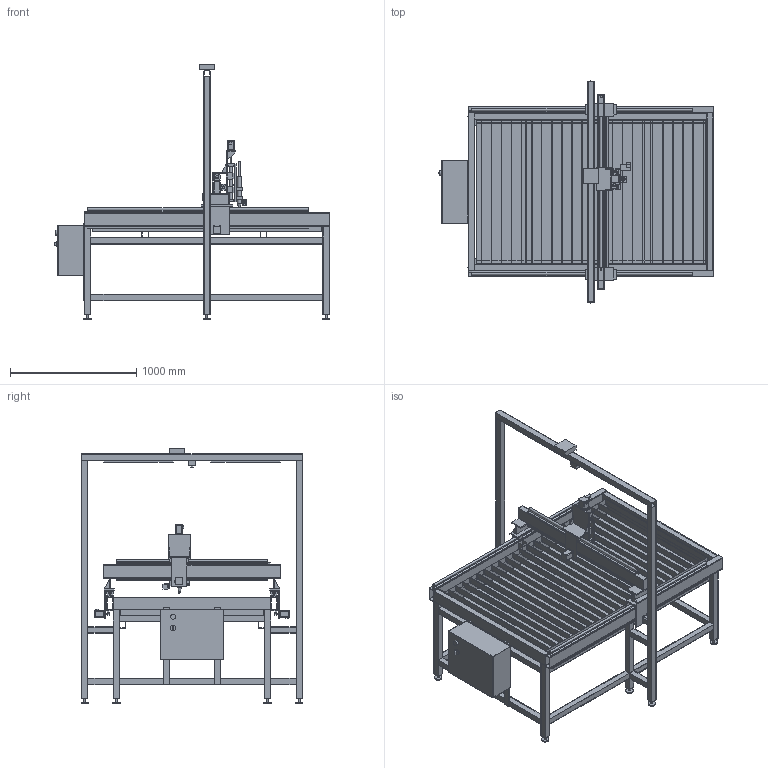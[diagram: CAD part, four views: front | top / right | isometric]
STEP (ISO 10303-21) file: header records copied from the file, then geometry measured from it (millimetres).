
FILE_DESCRIPTION(('Open CASCADE Model'),'2;1');
FILE_NAME('Open CASCADE Shape Model','2026-11-18T10:54:51',('Author'),( 'Open CASCADE'),'Open CASCADE STEP processor 7.9','Open CASCADE 7.9' ,'Unknown');
FILE_SCHEMA(('AUTOMOTIVE_DESIGN { 1 0 10303 214 1 1 1 1 }'));
Length unit declared in the file: millimetre
Products named in the file (178): Mesa_CNC_Plasma_1500x1000; viga_lat_dir; barra_trilho_dir; barra_crem_dir; viga_lat_esq; barra_trilho_esq; barra_crem_esq; viga_cab_tras; viga_cab_frente; pe_0_dir; sapata_0_dir; pe_0_esq; sapata_0_esq; pe_1_dir; sapata_1_dir; pe_1_esq; sapata_1_esq; pe_2_dir; sapata_2_dir; pe_2_esq; sapata_2_esq; trav_inf_long_a_dir; trav_inf_long_b_dir; trav_inf_long_a_esq; trav_inf_long_b_esq; trav_inf_transv_tras; trav_inf_transv_frente; apoio_band_long_dir; apoio_band_long_esq; apoio_band_transv_0; apoio_band_transv_1; apoio_band_transv_2; apoio_band_transv_3; apoio_band_transv_4; bandeja; sup_ripas_dir; sup_ripas_esq; ripa_00; ripa_01; ripa_02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
Assembly tree (177 placements, depth 2):
  Mesa_CNC_Plasma_1500x1000
    viga_lat_dir
    barra_trilho_dir
    barra_crem_dir
    viga_lat_esq
    barra_trilho_esq
    barra_crem_esq
    viga_cab_tras
    viga_cab_frente
    pe_0_dir
    sapata_0_dir
    pe_0_esq
    sapata_0_esq
    pe_1_dir
    sapata_1_dir
    pe_1_esq
    sapata_1_esq
    pe_2_dir
    sapata_2_dir
    pe_2_esq
    sapata_2_esq
    trav_inf_long_a_dir
    trav_inf_long_b_dir
    trav_inf_long_a_esq
    trav_inf_long_b_esq
    trav_inf_transv_tras
    trav_inf_transv_frente
    apoio_band_long_dir
    apoio_band_long_esq
    apoio_band_transv_0
    apoio_band_transv_1
    apoio_band_transv_2
    apoio_band_transv_3
    apoio_band_transv_4
    bandeja
    sup_ripas_dir
    sup_ripas_esq
    ripa_00
    ripa_01
    ripa_02
    ripa_03
    ripa_04
    ripa_05
    ripa_06
    ripa_07
    ripa_08
    ripa_09
    ripa_10
    ripa_11
    ripa_12
    ripa_13
    ripa_14
    ripa_15
    ripa_16
    ripa_17
    ripa_18
    ripa_19
    ripa_20
    ripa_21
    ripa_22
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Bounding box: 2187 x 1760 x 2025 mm (x, y, z)
Volume: 50065143.3 mm3; surface area: 29876288.6 mm2
Topology: 181 solids, 181 shells, 13964 faces, 34593 edges, 21046 vertices
Faces by surface type: plane 13835, cylinder 128, cone 1
Full cylindrical faces by diameter (mm): 5 x32, 5.2 x16, 7 x1, 8 x9, 10.2 x1, 11 x1, 12 x1, 14 x2, 16 x8, 18 x2, 20 x7, 21 x4, 22 x2, 32 x1, 38.1 x4, 39 x1, 40 x1, 44 x1, 60 x8
Entity records: 850124 total; most frequent: CARTESIAN_POINT 140199, DIRECTION 131089, LINE 102031, VECTOR 102031, ORIENTED_EDGE 69186, PCURVE 69186, DEFINITIONAL_REPRESENTATION 69186, EDGE_CURVE 34593
